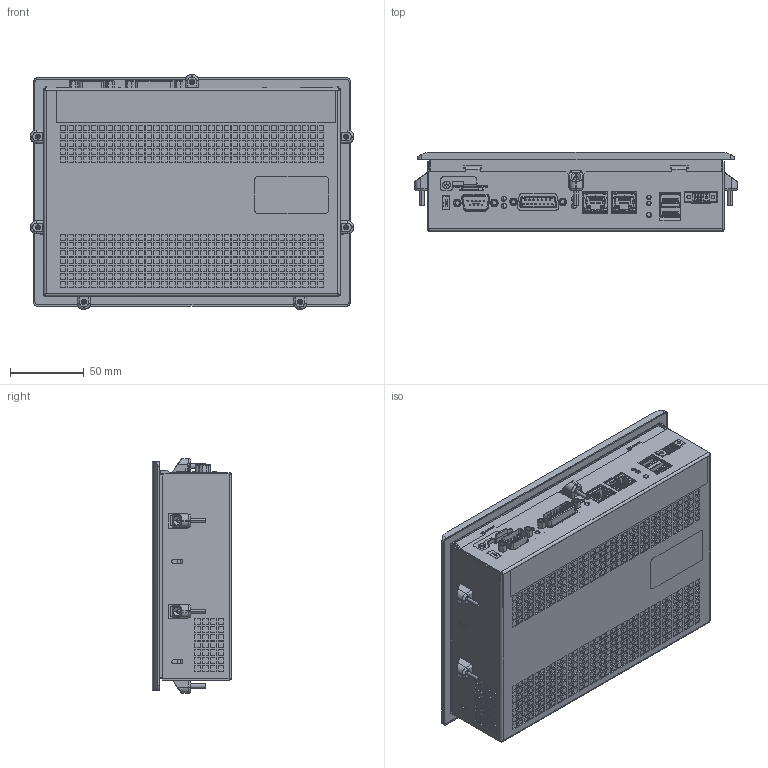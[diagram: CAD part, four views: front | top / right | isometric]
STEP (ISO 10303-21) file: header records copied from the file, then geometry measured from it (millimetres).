
FILE_DESCRIPTION (( 'STEP AP214' ), '1' );
FILE_NAME ('C6S14_70W_RES_UPS.STEP', '2019-07-30T07:41:19', ( '' ), ( '' ), 'SwSTEP 2.0', 'SolidWorks 2018', '' );
FILE_SCHEMA (( 'AUTOMOTIVE_DESIGN' ));
Length unit declared in the file: millimetre
Products named in the file (3): DB15_Male_pin; C6S14_70W_RES_UPS; C6S14_70W_RES_
Assembly tree (2 placements, depth 2):
  C6S14_70W_RES_UPS
    DB15_Male_pin
    C6S14_70W_RES_
Bounding box: 219 x 53.79 x 159 mm (x, y, z)
Surface area: 285448.4 mm2
Topology: 1 solids, 4658 shells, 4970 faces, 26795 edges, 26474 vertices
Faces by surface type: plane 3823, cylinder 772, bspline 200, cone 175
Entity records: 311167 total; most frequent: CARTESIAN_POINT 115679, DIRECTION 33219, ORIENTED_EDGE 27418, EDGE_CURVE 26762, VERTEX_POINT 26474, VECTOR 19757, LINE 19757, AXIS2_PLACEMENT_3D 6731
